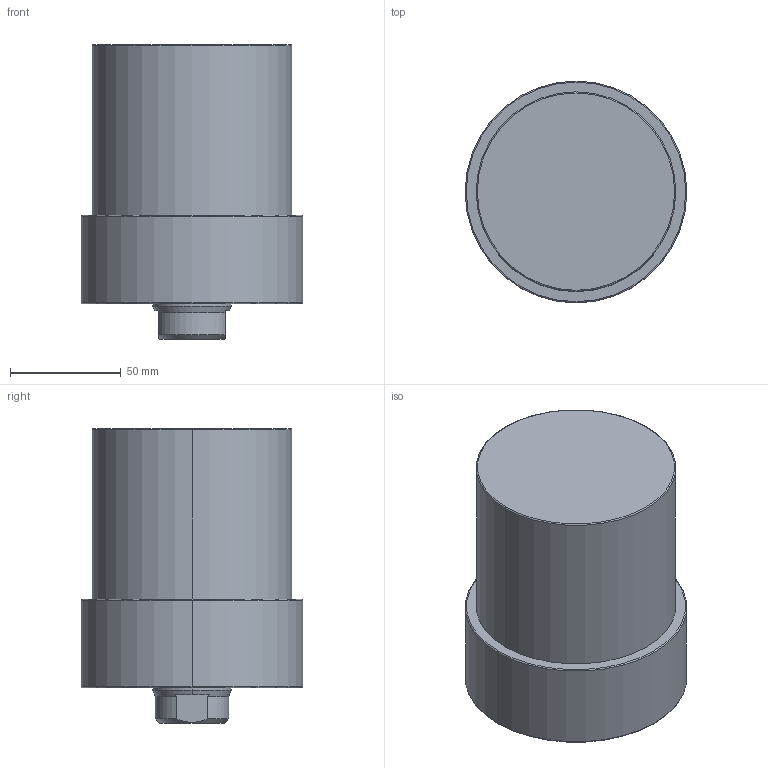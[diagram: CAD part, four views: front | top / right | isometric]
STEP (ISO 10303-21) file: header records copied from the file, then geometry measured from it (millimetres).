
FILE_DESCRIPTION (( 'STEP AP203' ), '1' );
FILE_NAME ('CLLU-090CA-055.STEP', '2020-01-11T00:37:44', ( '' ), ( '' ), 'SwSTEP 2.0', 'SolidWorks 2015', '' );
FILE_SCHEMA (( 'CONFIG_CONTROL_DESIGN' ));
Length unit declared in the file: millimetre
Products named in the file (1): CLLU-090CA-055
Bounding box: 100 x 100 x 133 mm (x, y, z)
Volume: 799561.6 mm3; surface area: 56620.7 mm2
Topology: 1 solids, 1 shells, 62 faces, 140 edges, 79 vertices
Faces by surface type: cone 24, cylinder 22, plane 10, torus 6
Entity records: 1767 total; most frequent: DIRECTION 320, CARTESIAN_POINT 316, ORIENTED_EDGE 260, AXIS2_PLACEMENT_3D 135, EDGE_CURVE 130, VERTEX_POINT 79, CIRCLE 72, EDGE_LOOP 71
